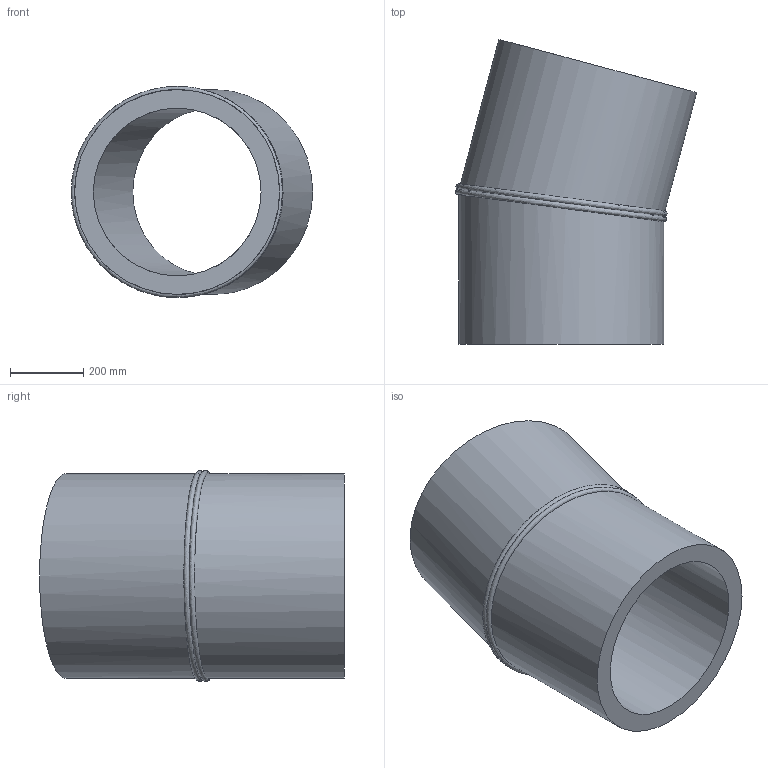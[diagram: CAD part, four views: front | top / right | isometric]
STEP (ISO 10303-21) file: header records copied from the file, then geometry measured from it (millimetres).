
FILE_DESCRIPTION(/* description */ ('Unknown'),/* implementation_level */ '2;1');
FILE_NAME(/* name */ 'Curva 15° a settore DE560 SDR11',/* time_stamp */ '2022-07-22T16:12:40+02:00',/* author */ ('Unknown'),/* organization */ ('Unknown'),/* preprocessor_version */ 'ST-DEVELOPER v18.102',/* originating_system */ 'Solid Edge',/* authorisation */ 'Unknown');
FILE_SCHEMA (('AUTOMOTIVE_DESIGN {1 0 10303 214 3 1 1}'));
Length unit declared in the file: millimetre
Products named in the file (2): Curva 15° a settore DE560 SDR11; Tubo x Gomito 15° DE560 SDR11
Assembly tree (2 placements, depth 2):
  Curva 15° a settore DE560 SDR11
    Tubo x Gomito 15° DE560 SDR11  x2
Bounding box: 660.01 x 833.01 x 576.93 mm (x, y, z)
Volume: 63244887.7 mm3; surface area: 2841492.5 mm2
Topology: 2 solids, 2 shells, 10 faces, 20 edges, 14 vertices
Faces by surface type: cylinder 4, plane 4, bspline 2
Full cylindrical faces by diameter (mm): 458.4 x2, 560 x2
Entity records: 1290 total; most frequent: CARTESIAN_POINT 1153, DIRECTION 20, ORIENTED_EDGE 10, EDGE_LOOP 10, FACE_BOUND 10, AXIS2_PLACEMENT_3D 10, EDGE_CURVE 5, VERTEX_POINT 5
